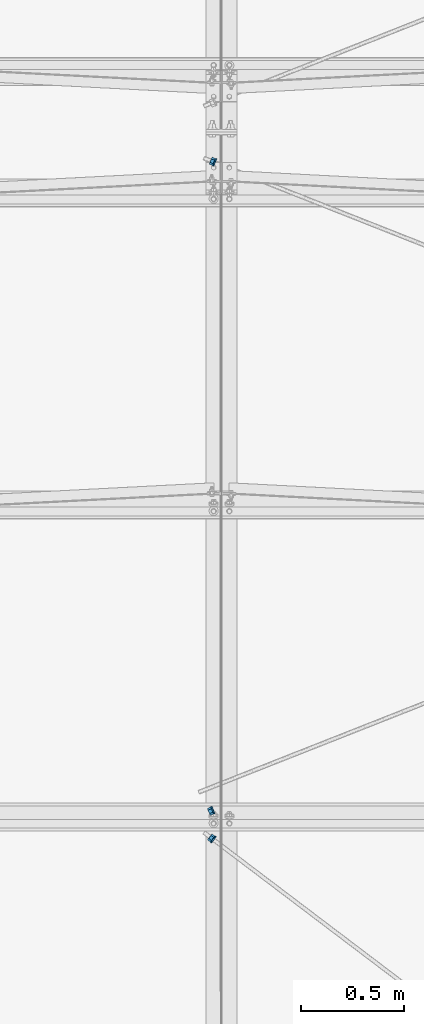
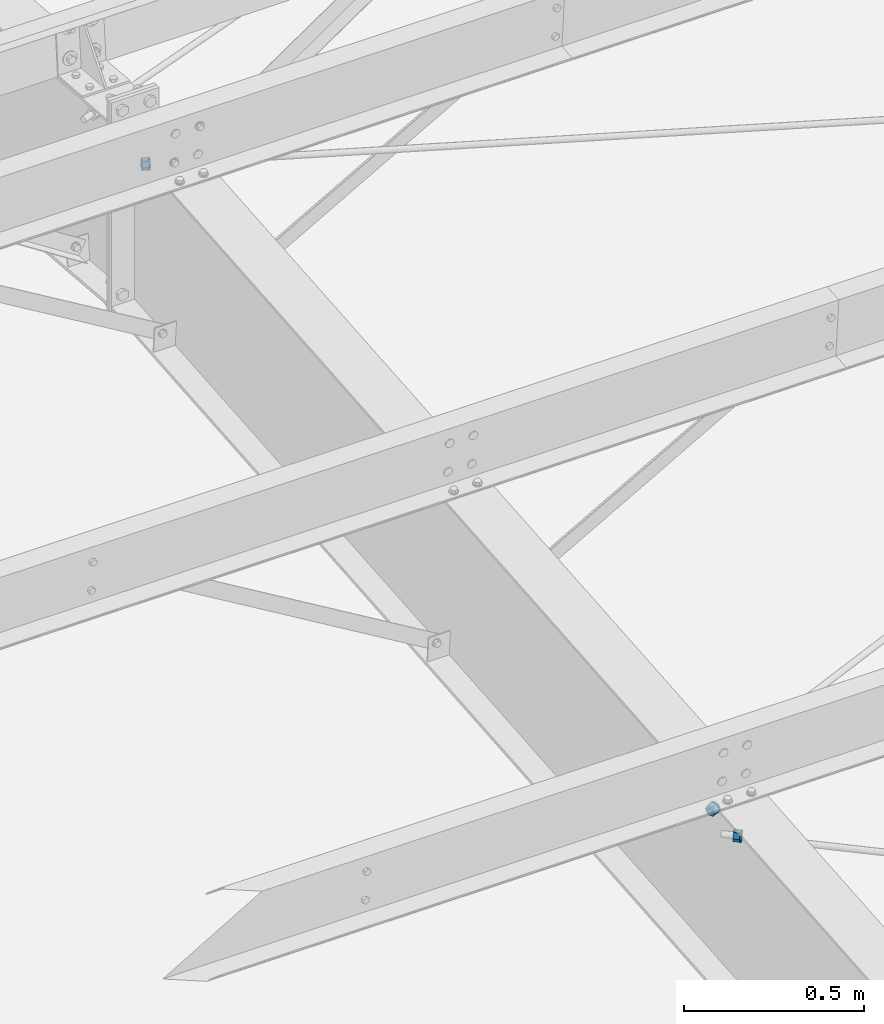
# One storey, part 29 of 185: 6 beams, 6 elements without a shape of their own.
"""IFC2X3 building model written with IfcOpenShell, lengths in millimetres."""

from ifc_helpers import new_model, si_unit, frame, origin_with_axes, place, context, subcontext, project, spatial, polyline, outline, extrude, material, type_object, element, aggregate, save


model = new_model("IFC2X3")

# Units and contexts
model_context = context("Model", 3, precision=1e-05, world=origin_with_axes())
body_context = subcontext(model_context, "Body", "Model", "MODEL_VIEW")
ifc_project = project(units=[si_unit("LENGTHUNIT", "METRE", prefix="MILLI"), si_unit("AREAUNIT", "SQUARE_METRE"), si_unit("VOLUMEUNIT", "CUBIC_METRE"), si_unit("MASSUNIT", "GRAM", prefix="KILO"), si_unit("TIMEUNIT", "SECOND"), si_unit("PLANEANGLEUNIT", "RADIAN"), si_unit("SOLIDANGLEUNIT", "STERADIAN"), si_unit("THERMODYNAMICTEMPERATUREUNIT", "DEGREE_CELSIUS"), si_unit("LUMINOUSINTENSITYUNIT", "LUMEN")], contexts=[model_context])

# Site, building, storey
site_placement = place(None, origin_with_axes())
site = spatial("IfcSite", under=ifc_project, at=site_placement, Name="Undefined", CompositionType="ELEMENT")
building_placement = place(site_placement, origin_with_axes())
building = spatial("IfcBuilding", under=site, at=building_placement, Name="Undefined", CompositionType="ELEMENT")
storey_placement = place(building_placement, origin_with_axes())
storey = spatial("IfcBuildingStorey", under=building, at=storey_placement, Name="Undefined", CompositionType="ELEMENT", Elevation=0.0)

# Assembly, beam
assembly_1_placement = place(storey_placement, origin_with_axes())
assembly_1 = element("IfcElementAssembly", 1, at=assembly_1_placement, inside=storey, Name="Steel Assembly", AssemblyPlace="NOTDEFINED", PredefinedType="RIGID_FRAME")
ifc_material = material(Name="STEEL/55")
beam_type_1 = type_object("IfcBeamType", Name="3/4_HEAVY_HEX_NUT", PredefinedType="NOTDEFINED")
beam_1_placement = place(assembly_1_placement, frame((7194.95072138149, 12702.4217448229, 6891.67697402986), z_axis=(-0.0288460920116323, -0.0128673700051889, 0.999501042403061), x_axis=(-0.924919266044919, -0.378850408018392, -0.0315708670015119)))
beam_1 = element("IfcBeam", 2, at=beam_1_placement, type_object=beam_type_1, material=ifc_material, Name="3/4 H HEX NUT A563", ObjectType="3/4_HEAVY_HEX_NUT", context=body_context, shape_type="SweptSolid", body=[
    extrude(outline(polyline([(9.13000011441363, -15.810000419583), (-9.13000011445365, -15.810000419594), (-18.2600002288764, 1.54614099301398e-11), (-9.13000011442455, 15.8100004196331), (9.13000011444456, 15.8100004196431), (18.2600002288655, 3.36513039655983e-11), (9.13000011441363, -15.810000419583)]), holes=[polyline([(-8.06850066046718, 6.43441456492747), (-10.061255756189, 2.29641597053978), (-10.0612557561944, -2.29641597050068), (-8.06850066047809, -6.43441456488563), (-4.47768005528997, -9.29799844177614), (-1.09139364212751e-11, -10.3199996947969), (4.47768005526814, -9.29799844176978), (8.0685006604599, -6.43441456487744), (10.0612557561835, -2.29641597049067), (10.0612557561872, 2.2964159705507), (8.06850066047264, 6.43441456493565), (4.47768005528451, 9.29799844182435), (7.27595761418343e-12, 10.319999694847), (-4.47768005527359, 9.2979984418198), (-8.06850066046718, 6.43441456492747)])]), frame((19.0500000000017, 0.0, 2.58175642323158e-19), z_axis=(-1.0, 0.0, 0.0), x_axis=(0.0, -1.0, 0.0)), (0.0, 0.0, 1.0), 19.0),
])
aggregate(assembly_1, [beam_1])

assembly_2_placement = place(storey_placement, origin_with_axes())
assembly_2 = element("IfcElementAssembly", 3, at=assembly_2_placement, inside=storey, Name="Steel Assembly", AssemblyPlace="NOTDEFINED", PredefinedType="RIGID_FRAME")
beam_2_placement = place(assembly_2_placement, frame((7203.76057611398, 15856.0793379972, 7154.48177068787), z_axis=(-0.0290102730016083, 0.012466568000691, -0.999501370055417), x_axis=(-0.924919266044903, 0.378850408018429, 0.0315708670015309)))
beam_2 = element("IfcBeam", 4, at=beam_2_placement, type_object=beam_type_1, material=ifc_material, Name="3/4 H HEX NUT A563", ObjectType="3/4_HEAVY_HEX_NUT", context=body_context, shape_type="SweptSolid", body=[
    extrude(outline(polyline([(9.13000011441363, -15.810000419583), (-9.13000011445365, -15.810000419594), (-18.2600002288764, 1.54614099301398e-11), (-9.13000011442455, 15.8100004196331), (9.13000011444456, 15.8100004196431), (18.2600002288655, 3.36513039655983e-11), (9.13000011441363, -15.810000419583)]), holes=[polyline([(-8.06850066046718, 6.43441456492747), (-10.061255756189, 2.29641597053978), (-10.0612557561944, -2.29641597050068), (-8.06850066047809, -6.43441456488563), (-4.47768005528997, -9.29799844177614), (-1.09139364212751e-11, -10.3199996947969), (4.47768005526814, -9.29799844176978), (8.0685006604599, -6.43441456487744), (10.0612557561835, -2.29641597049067), (10.0612557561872, 2.2964159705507), (8.06850066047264, 6.43441456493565), (4.47768005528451, 9.29799844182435), (7.27595761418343e-12, 10.319999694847), (-4.47768005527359, 9.2979984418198), (-8.06850066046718, 6.43441456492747)])]), frame((19.0500000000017, 0.0, 2.58175642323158e-19), z_axis=(-1.0, 0.0, 0.0), x_axis=(0.0, -1.0, 0.0)), (0.0, 0.0, 1.0), 19.0),
])
aggregate(assembly_2, [beam_2])

assembly_3_placement = place(storey_placement, origin_with_axes())
assembly_3 = element("IfcElementAssembly", 5, at=assembly_3_placement, inside=storey, Name="Steel Assembly", AssemblyPlace="NOTDEFINED", PredefinedType="RIGID_FRAME")
beam_3_placement = place(assembly_3_placement, frame((7197.29105502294, 12562.2463359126, 6879.9956867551), z_axis=(-0.0397310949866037, 0.0307690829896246, -0.998736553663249), x_axis=(-0.796162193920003, 0.602993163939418, 0.0502494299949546)))
beam_3 = element("IfcBeam", 6, at=beam_3_placement, type_object=beam_type_1, material=ifc_material, Name="3/4 H HEX NUT A563", ObjectType="3/4_HEAVY_HEX_NUT", context=body_context, shape_type="SweptSolid", body=[
    extrude(outline(polyline([(9.13000011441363, -15.810000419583), (-9.13000011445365, -15.810000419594), (-18.2600002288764, 1.54614099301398e-11), (-9.13000011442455, 15.8100004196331), (9.13000011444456, 15.8100004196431), (18.2600002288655, 3.36513039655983e-11), (9.13000011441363, -15.810000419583)]), holes=[polyline([(-8.06850066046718, 6.43441456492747), (-10.061255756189, 2.29641597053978), (-10.0612557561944, -2.29641597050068), (-8.06850066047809, -6.43441456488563), (-4.47768005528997, -9.29799844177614), (-1.09139364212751e-11, -10.3199996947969), (4.47768005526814, -9.29799844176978), (8.0685006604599, -6.43441456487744), (10.0612557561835, -2.29641597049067), (10.0612557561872, 2.2964159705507), (8.06850066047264, 6.43441456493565), (4.47768005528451, 9.29799844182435), (7.27595761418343e-12, 10.319999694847), (-4.47768005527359, 9.2979984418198), (-8.06850066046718, 6.43441456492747)])]), frame((19.0500000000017, 0.0, 2.58175642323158e-19), z_axis=(-1.0, 0.0, 0.0), x_axis=(0.0, -1.0, 0.0)), (0.0, 0.0, 1.0), 19.0),
])
aggregate(assembly_3, [beam_3])

assembly_4_placement = place(storey_placement, origin_with_axes())
assembly_4 = element("IfcElementAssembly", 7, at=assembly_4_placement, inside=storey, Name="Steel Assembly", AssemblyPlace="NOTDEFINED", PredefinedType="RIGID_FRAME")
beam_type_2 = type_object("IfcBeamType", Name="3/4_WASHER", PredefinedType="NOTDEFINED")
beam_4_placement = place(assembly_4_placement, frame((7199.35564938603, 12704.2260198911, 6891.82733028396), z_axis=(-0.0288460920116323, -0.0128673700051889, 0.999501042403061), x_axis=(-0.924919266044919, -0.378850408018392, -0.0315708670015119)))
beam_4 = element("IfcBeam", 8, at=beam_4_placement, type_object=beam_type_2, material=ifc_material, Name="3/4 WASHER F844", ObjectType="3/4_WASHER", context=body_context, shape_type="SweptSolid", body=[
    extrude(outline(polyline([(-11.6280845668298, -14.5811568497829), (-16.8030690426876, -8.09193156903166), (-18.649999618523, -4.54747350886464e-12), (-16.8030690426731, 8.09193156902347), (-11.6280845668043, 14.5811568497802), (-4.15001533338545, 18.1824051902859), (4.15001533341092, 18.1824051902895), (11.628084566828, 14.5811568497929), (16.8030690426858, 8.09193156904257), (18.6499996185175, 1.45519152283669e-11), (16.8030690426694, -8.09193156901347), (11.6280845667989, -14.5811568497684), (4.15001533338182, -18.182405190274), (-4.15001533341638, -18.1824051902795), (-11.6280845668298, -14.5811568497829)]), holes=[polyline([(-8.06850066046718, 6.43441456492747), (-10.061255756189, 2.29641597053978), (-10.0612557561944, -2.29641597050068), (-8.06850066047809, -6.43441456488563), (-4.47768005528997, -9.29799844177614), (-1.09139364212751e-11, -10.3199996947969), (4.47768005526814, -9.29799844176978), (8.0685006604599, -6.43441456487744), (10.0612557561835, -2.29641597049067), (10.0612557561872, 2.2964159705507), (8.06850066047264, 6.43441456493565), (4.47768005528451, 9.29799844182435), (7.27595761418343e-12, 10.319999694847), (-4.47768005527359, 9.2979984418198), (-8.06850066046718, 6.43441456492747)])]), frame((4.76250000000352, 2.6437185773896e-16, 5.6843418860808e-14), z_axis=(-1.0, 0.0, 0.0), x_axis=(0.0, -1.0, 0.0)), (0.0, 0.0, 1.0), 4.8),
])
aggregate(assembly_4, [beam_4])

assembly_5_placement = place(storey_placement, origin_with_axes())
assembly_5 = element("IfcElementAssembly", 9, at=assembly_5_placement, inside=storey, Name="Steel Assembly", AssemblyPlace="NOTDEFINED", PredefinedType="RIGID_FRAME")
beam_5_placement = place(assembly_5_placement, frame((7208.16550411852, 15854.275062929, 7154.33141443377), z_axis=(-0.0290102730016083, 0.012466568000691, -0.999501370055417), x_axis=(-0.924919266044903, 0.378850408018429, 0.0315708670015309)))
beam_5 = element("IfcBeam", 10, at=beam_5_placement, type_object=beam_type_2, material=ifc_material, Name="3/4 WASHER F844", ObjectType="3/4_WASHER", context=body_context, shape_type="SweptSolid", body=[
    extrude(outline(polyline([(-11.6280845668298, -14.5811568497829), (-16.8030690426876, -8.09193156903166), (-18.649999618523, -4.54747350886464e-12), (-16.8030690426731, 8.09193156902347), (-11.6280845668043, 14.5811568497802), (-4.15001533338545, 18.1824051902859), (4.15001533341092, 18.1824051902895), (11.628084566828, 14.5811568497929), (16.8030690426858, 8.09193156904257), (18.6499996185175, 1.45519152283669e-11), (16.8030690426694, -8.09193156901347), (11.6280845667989, -14.5811568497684), (4.15001533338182, -18.182405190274), (-4.15001533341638, -18.1824051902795), (-11.6280845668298, -14.5811568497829)]), holes=[polyline([(-8.06850066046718, 6.43441456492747), (-10.061255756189, 2.29641597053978), (-10.0612557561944, -2.29641597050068), (-8.06850066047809, -6.43441456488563), (-4.47768005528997, -9.29799844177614), (-1.09139364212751e-11, -10.3199996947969), (4.47768005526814, -9.29799844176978), (8.0685006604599, -6.43441456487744), (10.0612557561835, -2.29641597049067), (10.0612557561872, 2.2964159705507), (8.06850066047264, 6.43441456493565), (4.47768005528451, 9.29799844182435), (7.27595761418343e-12, 10.319999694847), (-4.47768005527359, 9.2979984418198), (-8.06850066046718, 6.43441456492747)])]), frame((4.76250000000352, 2.6437185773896e-16, 5.6843418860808e-14), z_axis=(-1.0, 0.0, 0.0), x_axis=(0.0, -1.0, 0.0)), (0.0, 0.0, 1.0), 4.8),
])
aggregate(assembly_5, [beam_5])

assembly_6_placement = place(storey_placement, origin_with_axes())
assembly_6 = element("IfcElementAssembly", 11, at=assembly_6_placement, inside=storey, Name="Steel Assembly", AssemblyPlace="NOTDEFINED", PredefinedType="RIGID_FRAME")
beam_6_placement = place(assembly_6_placement, frame((7201.08277747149, 12559.3745809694, 6879.75637384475), z_axis=(-0.0397310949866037, 0.0307690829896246, -0.998736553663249), x_axis=(-0.796162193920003, 0.602993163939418, 0.0502494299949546)))
beam_6 = element("IfcBeam", 12, at=beam_6_placement, type_object=beam_type_2, material=ifc_material, Name="3/4 WASHER F844", ObjectType="3/4_WASHER", context=body_context, shape_type="SweptSolid", body=[
    extrude(outline(polyline([(-11.6280845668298, -14.5811568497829), (-16.8030690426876, -8.09193156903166), (-18.649999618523, -4.54747350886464e-12), (-16.8030690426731, 8.09193156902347), (-11.6280845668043, 14.5811568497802), (-4.15001533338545, 18.1824051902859), (4.15001533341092, 18.1824051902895), (11.628084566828, 14.5811568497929), (16.8030690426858, 8.09193156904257), (18.6499996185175, 1.45519152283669e-11), (16.8030690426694, -8.09193156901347), (11.6280845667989, -14.5811568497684), (4.15001533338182, -18.182405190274), (-4.15001533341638, -18.1824051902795), (-11.6280845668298, -14.5811568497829)]), holes=[polyline([(-8.06850066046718, 6.43441456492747), (-10.061255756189, 2.29641597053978), (-10.0612557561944, -2.29641597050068), (-8.06850066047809, -6.43441456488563), (-4.47768005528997, -9.29799844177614), (-1.09139364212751e-11, -10.3199996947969), (4.47768005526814, -9.29799844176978), (8.0685006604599, -6.43441456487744), (10.0612557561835, -2.29641597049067), (10.0612557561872, 2.2964159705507), (8.06850066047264, 6.43441456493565), (4.47768005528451, 9.29799844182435), (7.27595761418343e-12, 10.319999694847), (-4.47768005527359, 9.2979984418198), (-8.06850066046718, 6.43441456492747)])]), frame((4.76250000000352, 2.6437185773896e-16, 5.6843418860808e-14), z_axis=(-1.0, 0.0, 0.0), x_axis=(0.0, -1.0, 0.0)), (0.0, 0.0, 1.0), 4.8),
])
aggregate(assembly_6, [beam_6])

save(model, "model.ifc")
